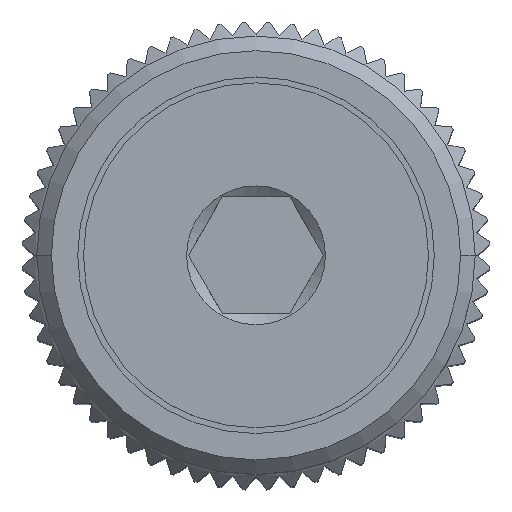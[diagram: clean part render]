
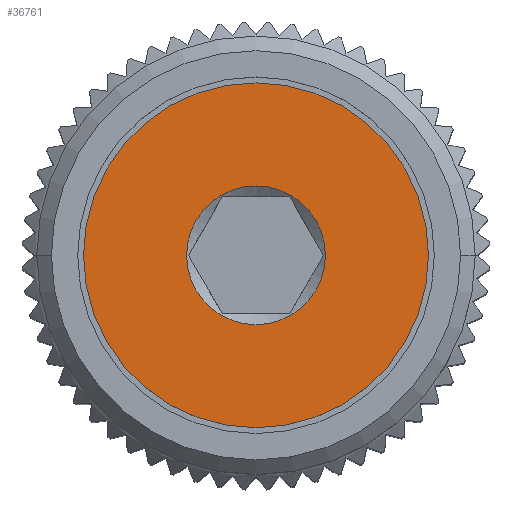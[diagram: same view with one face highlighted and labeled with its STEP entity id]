
A CAD part, top view. The second image highlights one B-rep face of the part: STEP entity #36761.
In plain terms, the highlighted planar face has unit normal (0, 0, 1).
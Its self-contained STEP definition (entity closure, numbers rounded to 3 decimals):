
#35582=CARTESIAN_POINT('',(0.,0.,3.4));
#35583=DIRECTION('',(0.,0.,1.));
#35584=DIRECTION('',(-1.,0.,0.));
#35585=AXIS2_PLACEMENT_3D('',#35582,#35583,#35584);
#35587=CARTESIAN_POINT('',(0.,0.,3.4));
#35588=DIRECTION('',(0.,0.,1.));
#35589=DIRECTION('',(1.,0.,0.));
#35590=AXIS2_PLACEMENT_3D('',#35587,#35588,#35589);
#35592=CARTESIAN_POINT('',(0.,0.,3.4));
#35593=DIRECTION('',(0.,0.,1.));
#35594=DIRECTION('',(-1.,0.,0.));
#35595=AXIS2_PLACEMENT_3D('',#35592,#35593,#35594);
#35597=CARTESIAN_POINT('',(0.,0.,3.4));
#35598=DIRECTION('',(0.,0.,1.));
#35599=DIRECTION('',(1.,0.,0.));
#35600=AXIS2_PLACEMENT_3D('',#35597,#35598,#35599);
#36592=CARTESIAN_POINT('',(-5.9,0.,3.4));
#36593=CARTESIAN_POINT('',(5.9,0.,3.4));
#36594=VERTEX_POINT('',#36592);
#36595=VERTEX_POINT('',#36593);
#36612=CARTESIAN_POINT('',(-2.373,0.,3.4));
#36613=CARTESIAN_POINT('',(2.373,0.,3.4));
#36614=VERTEX_POINT('',#36612);
#36615=VERTEX_POINT('',#36613);
#36746=CARTESIAN_POINT('',(0.,0.,3.4));
#36747=DIRECTION('',(0.,0.,1.));
#36748=DIRECTION('',(-1.,0.,0.));
#36749=AXIS2_PLACEMENT_3D('',#36746,#36747,#36748);
#36750=PLANE('',#36749);
#36751=ORIENTED_EDGE('',*,*,#36726,.F.);
#36752=ORIENTED_EDGE('',*,*,#36740,.F.);
#36753=EDGE_LOOP('',(#36751,#36752));
#36754=FACE_OUTER_BOUND('',#36753,.F.);
#36756=ORIENTED_EDGE('',*,*,#36755,.T.);
#36758=ORIENTED_EDGE('',*,*,#36757,.T.);
#36759=EDGE_LOOP('',(#36756,#36758));
#36760=FACE_BOUND('',#36759,.F.);
#36761=ADVANCED_FACE('',(#36754,#36760),#36750,.T.);
#35586=CIRCLE('',#35585,5.9);
#35591=CIRCLE('',#35590,5.9);
#35596=CIRCLE('',#35595,2.373);
#35601=CIRCLE('',#35600,2.373);
#36726=EDGE_CURVE('',#36594,#36595,#35586,.T.);
#36740=EDGE_CURVE('',#36595,#36594,#35591,.T.);
#36755=EDGE_CURVE('',#36614,#36615,#35596,.T.);
#36757=EDGE_CURVE('',#36615,#36614,#35601,.T.);
